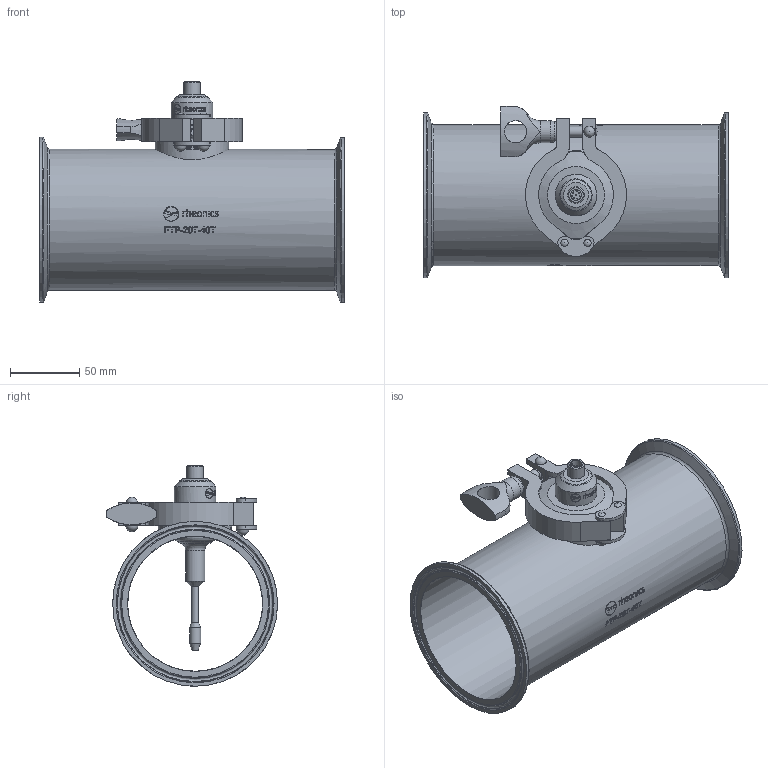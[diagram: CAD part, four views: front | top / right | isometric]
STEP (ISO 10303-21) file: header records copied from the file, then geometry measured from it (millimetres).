
FILE_DESCRIPTION(/* description */ ('Unknown'),/* implementation_level */ '2;1');
FILE_NAME(/* name */ 'SRV-FTP-20T-40T',/* time_stamp */ '2024-12-26T12:34:16-05:00',/* author */ ('Unknown'),/* organization */ ('Unknown'),/* preprocessor_version */ 'ST-DEVELOPER v16.7',/* originating_system */ 'Solid Edge',/* authorisation */ 'Unknown');
FILE_SCHEMA (('AUTOMOTIVE_DESIGN {1 0 10303 214 3 1 1}'));
Length unit declared in the file: millimetre
Products named in the file (5): SRV-FTP-20T-40T; FTP-20T-40T; TC-20T-Seal; SRV-HD-X3-A99-B20T; TC_2inch_Seal_Clamp
Assembly tree (4 placements, depth 2):
  SRV-FTP-20T-40T
    FTP-20T-40T
    TC-20T-Seal
    SRV-HD-X3-A99-B20T
    TC_2inch_Seal_Clamp
Bounding box: 220 x 123.52 x 159.13 mm (x, y, z)
Volume: 264128.2 mm3; surface area: 191360.4 mm2
Topology: 4 solids, 4 shells, 783 faces, 1997 edges, 1306 vertices
Faces by surface type: bspline 291, plane 264, cylinder 150, torus 38, cone 25, sphere 15
Full cylindrical faces by diameter (mm): 0.8 x8, 5.019 x1, 7.938 x1, 8 x2, 12 x1, 13.9 x1, 15.873 x1, 16 x1, 30 x2, 50 x1, 50.2 x1, 53 x1, 64 x3, 97.38 x1, 101.6 x1, 119 x2
Entity records: 54600 total; most frequent: CARTESIAN_POINT 33146, ORIENTED_EDGE 3672, DIRECTION 2593, EDGE_CURVE 1836, VERTEX_POINT 1269, EDGE_LOOP 1007, FACE_BOUND 1007, AXIS2_PLACEMENT_3D 912
